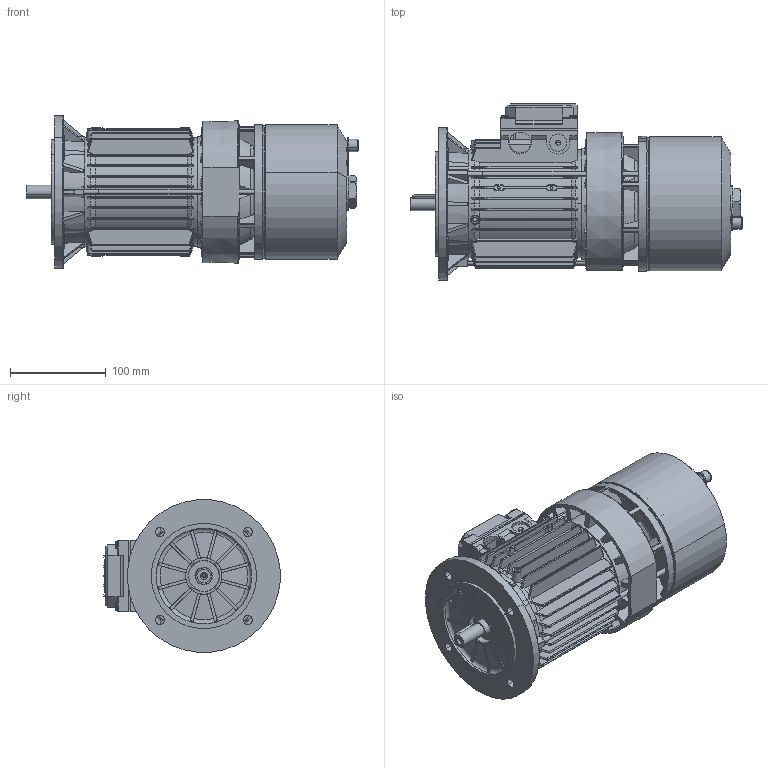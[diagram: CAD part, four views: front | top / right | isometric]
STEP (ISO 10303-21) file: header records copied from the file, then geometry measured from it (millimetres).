
FILE_DESCRIPTION (( 'STEP AP214' ), '1' );
FILE_NAME ('M02CB0010.STEP', '2018-11-29T08:36:41', ( '' ), ( '' ), 'SwSTEP 2.0', 'SolidWorks 2018', '' );
FILE_SCHEMA (( 'AUTOMOTIVE_DESIGN' ));
Length unit declared in the file: millimetre
Products named in the file (15): Tirante BA 71 - DBA60094; Coperchio per Scatola Singola 63-71-80 con viti; Guarnizione Scatola Singola 63-71-80; Vite per coperchio morsettiera; Coperchio per Scatola Singola 63-71-80 - DBAN0095; Vite a Testa Esagona con foro e tappo 71-112 - Modificata; Cuffia serie BA 71; Convogliatore con pista di attrito P2 BA 71 - DBAF0295; Scudo Lato Freno BA 71 P1 - DBAE0094; Chiavetta 71; Scudo a flangia B5 Fi 160 BA-BM 71; Albero BA 71; Carcassa 71 B5; M02CB0010; Anello per Gruppo Freno 71 - DBAU0294
Assembly tree (19 placements, depth 3):
  M02CB0010
    Carcassa 71 B5
    Albero BA 71
    Scudo a flangia B5 Fi 160 BA-BM 71
    Chiavetta 71
    Scudo Lato Freno BA 71 P1 - DBAE0094
    Convogliatore con pista di attrito P2 BA 71 - DBAF0295
    Cuffia serie BA 71
    Vite a Testa Esagona con foro e tappo 71-112 - Modificata
    Coperchio per Scatola Singola 63-71-80 con viti
      Coperchio per Scatola Singola 63-71-80 - DBAN0095
      Vite per coperchio morsettiera  x4
      Guarnizione Scatola Singola 63-71-80
    Tirante BA 71 - DBA60094  x3
    Anello per Gruppo Freno 71 - DBAU0294
Bounding box: 347.18 x 184.2 x 159.39 mm (x, y, z)
Volume: 972745.7 mm3; surface area: 603746.7 mm2
Topology: 21 solids, 21 shells, 2688 faces, 7214 edges, 4479 vertices
Faces by surface type: plane 910, cylinder 726, torus 360, bspline 355, cone 337
Entity records: 91924 total; most frequent: CARTESIAN_POINT 32350, ORIENTED_EDGE 13124, DIRECTION 10923, EDGE_CURVE 6562, AXIS2_PLACEMENT_3D 4251, VERTEX_POINT 4181, EDGE_LOOP 2629, ADVANCED_FACE 2454
